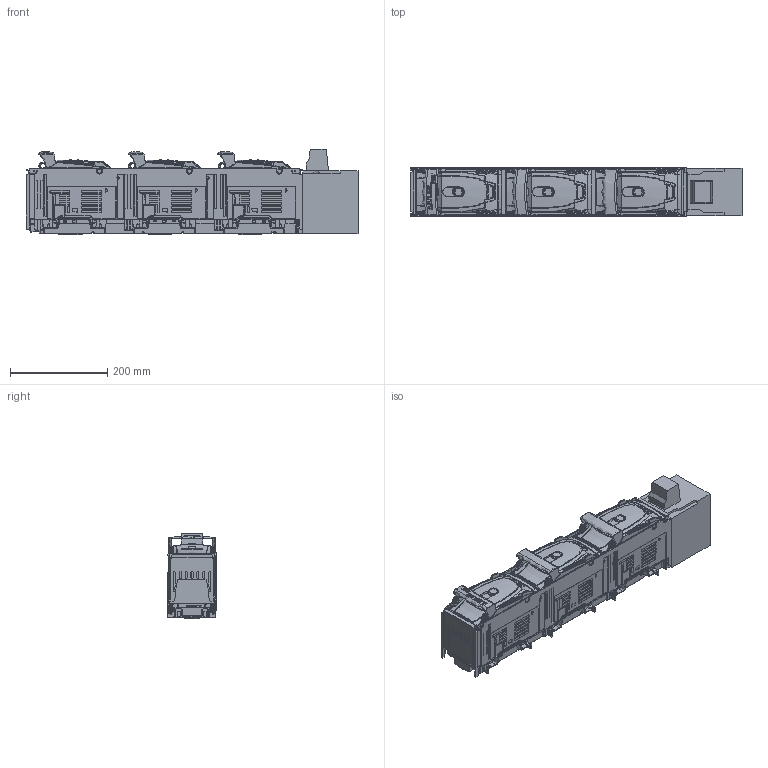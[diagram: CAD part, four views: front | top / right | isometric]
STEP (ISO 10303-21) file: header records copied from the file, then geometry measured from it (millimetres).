
FILE_DESCRIPTION(/* description */ (''),/* implementation_level */ '2;1');
FILE_NAME(/* name */ 'ARS 400-1-V.stp',/* time_stamp */ '2018-07-16T09:15:06+02:00',/* author */ (''),/* organization */ (''),/* preprocessor_version */ 'ST-DEVELOPER v16',/* originating_system */ 'SIEMENS PLM Software NX 10.0',/* authorisation */ '');
FILE_SCHEMA (('AUTOMOTIVE_DESIGN { 1 0 10303 214 3 1 1 1 }'));
Products named in the file (1): 710_0AD4EC05y3eg
Bounding box: 683.87 x 99.58 x 175.15 mm (x, y, z)
Volume: 7681694.9 mm3; surface area: 632729.6 mm2
Topology: 1 solids, 14 shells, 12042 faces, 31630 edges, 19509 vertices
Faces by surface type: plane 4314, bspline 3484, cylinder 3227, torus 350, cone 311, sphere 249, extrusion 107
Full cylindrical faces by diameter (mm): 1.7 x12, 2.263 x2, 3.5 x4, 3.7 x4, 5 x1, 6 x1, 14 x1
Entity records: 516969 total; most frequent: CARTESIAN_POINT 250528, ORIENTED_EDGE 62554, DIRECTION 42985, EDGE_CURVE 31277, VERTEX_POINT 19479, VECTOR 14503, LINE 14396, AXIS2_PLACEMENT_3D 14241
